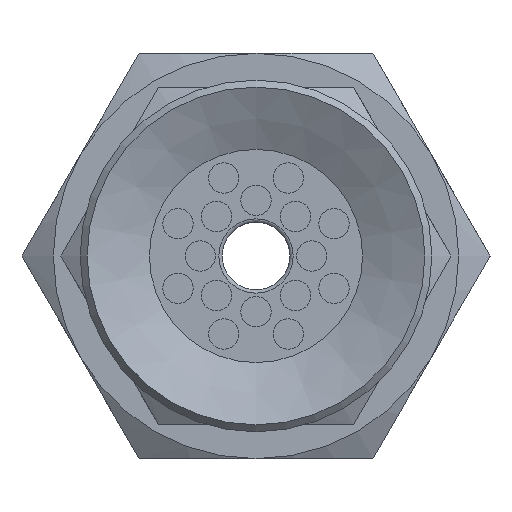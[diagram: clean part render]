
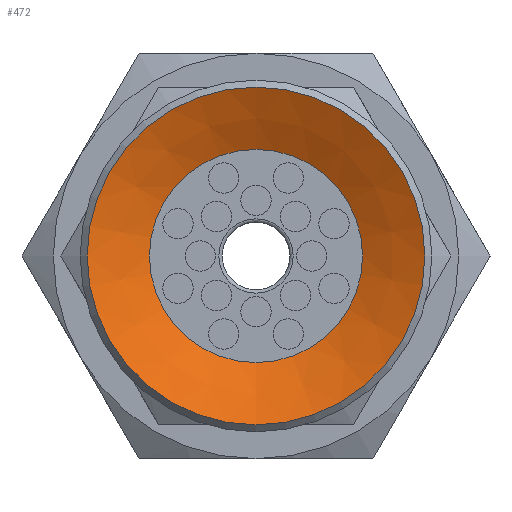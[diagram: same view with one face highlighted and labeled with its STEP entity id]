
A CAD part, front view. The second image highlights one B-rep face of the part: STEP entity #472.
In plain terms, the highlighted conical face has half-angle 64 degrees and reference radius 5 mm.
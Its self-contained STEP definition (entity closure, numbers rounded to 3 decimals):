
#472=ADVANCED_FACE('',(#731,#732),#733,.F.);
#731=FACE_BOUND('',#1076,.T.);
#732=FACE_OUTER_BOUND('',#1077,.T.);
#733=CONICAL_SURFACE('',#1078,5.0,1.117);
#1076=EDGE_LOOP('',(#1708));
#1077=EDGE_LOOP('',(#1709));
#1078=AXIS2_PLACEMENT_3D('',#1710,#1711,#1712);
#1708=ORIENTED_EDGE('',*,*,#2157,.T.);
#1709=ORIENTED_EDGE('',*,*,#2176,.F.);
#1710=CARTESIAN_POINT('',(0.0,0.,0.));
#1711=DIRECTION('',(0.0,0.,-1.0));
#1712=DIRECTION('',(0.0,1.0,0.));
#2157=EDGE_CURVE('',#2455,#2455,#2456,.T.);
#2176=EDGE_CURVE('',#2493,#2493,#2494,.T.);
#2455=VERTEX_POINT('',#3111);
#2456=CIRCLE('',#3112,3.155);
#2493=VERTEX_POINT('',#3149);
#2494=CIRCLE('',#3150,5.0);
#3111=CARTESIAN_POINT('',(0.0,-3.155,0.9));
#3112=AXIS2_PLACEMENT_3D('',#3518,#3519,#3520);
#3149=CARTESIAN_POINT('',(0.0,-5.0,0.));
#3150=AXIS2_PLACEMENT_3D('',#3575,#3576,#3577);
#3518=CARTESIAN_POINT('',(0.0,0.,0.9));
#3519=DIRECTION('',(0.0,0.,1.0));
#3520=DIRECTION('',(0.0,-1.0,0.));
#3575=CARTESIAN_POINT('',(0.0,0.,0.));
#3576=DIRECTION('',(0.0,0.,1.0));
#3577=DIRECTION('',(0.0,-1.0,0.));
